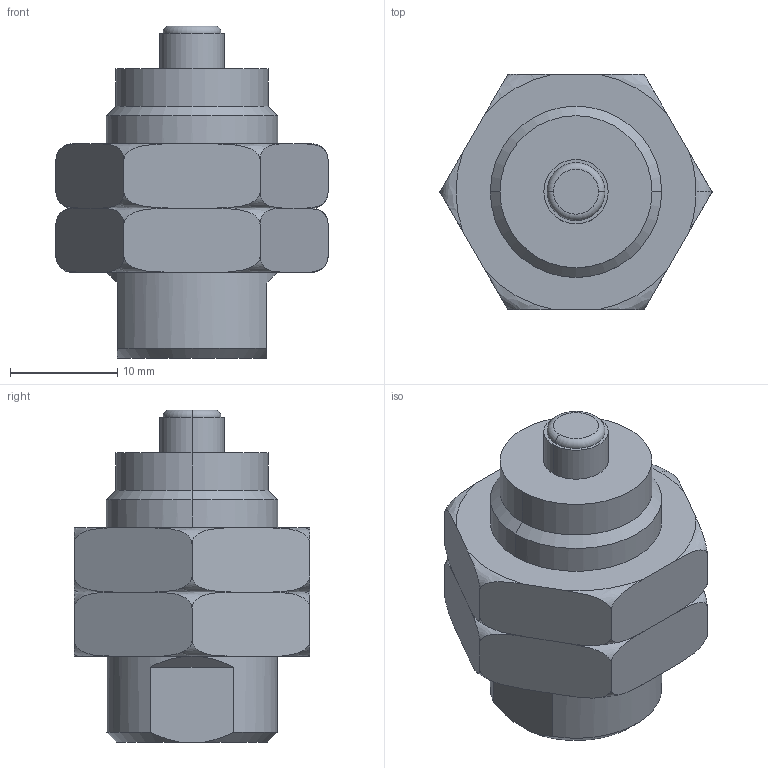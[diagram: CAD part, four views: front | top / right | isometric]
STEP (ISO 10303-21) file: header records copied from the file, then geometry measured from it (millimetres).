
FILE_DESCRIPTION (( 'STEP AP214' ), '1' );
FILE_NAME ('RBQC1604.step.step', '2021-09-29T01:01:15', ( '' ), ( '' ), 'SwSTEP 2.0', 'SolidWorks 2021', '' );
FILE_SCHEMA (( 'AUTOMOTIVE_DESIGN' ));
Length unit declared in the file: millimetre
Products named in the file (4): RBQC1604.step; RBQC1604.step_RBQ-Piston_1604C; RBQC1604.step_RBQ-Nut_16; RBQC1604.step_RBQ-Body_1604
Assembly tree (4 placements, depth 2):
  RBQC1604.step
    RBQC1604.step_RBQ-Body_1604
    RBQC1604.step_RBQ-Piston_1604C
    RBQC1604.step_RBQ-Nut_16  x2
Bounding box: 25.4 x 22 x 31 mm (x, y, z)
Volume: 7724.6 mm3; surface area: 4406.5 mm2
Topology: 4 solids, 4 shells, 78 faces, 190 edges, 124 vertices
Faces by surface type: torus 30, plane 28, cylinder 16, cone 4
Entity records: 2036 total; most frequent: CARTESIAN_POINT 653, DIRECTION 268, ORIENTED_EDGE 252, EDGE_CURVE 126, AXIS2_PLACEMENT_3D 113, VERTEX_POINT 82, EDGE_LOOP 60, ADVANCED_FACE 54
